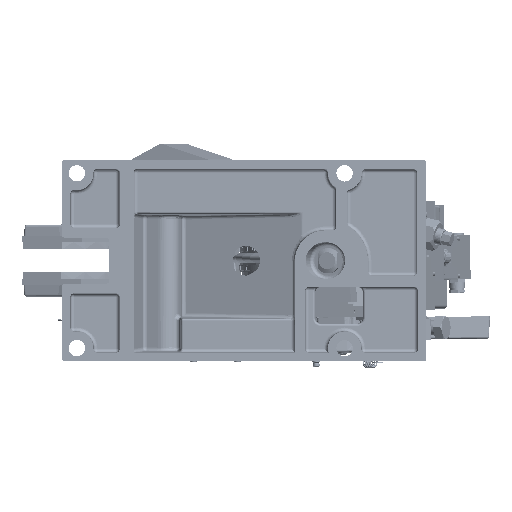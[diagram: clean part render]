
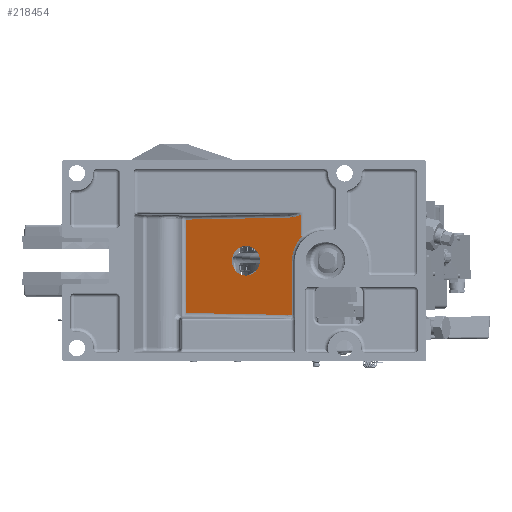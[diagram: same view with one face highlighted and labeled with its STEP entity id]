
A CAD part, front view. The second image highlights one B-rep face of the part: STEP entity #218454.
In plain terms, the highlighted planar face has unit normal (-0.342, -0.94, 0).
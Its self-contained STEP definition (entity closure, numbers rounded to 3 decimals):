
#56456=CARTESIAN_POINT('',(302.637,13.018,32.347));
#56465=CARTESIAN_POINT('',(301.859,13.302,34.821));
#56466=CARTESIAN_POINT('',(301.859,13.302,34.597));
#56467=CARTESIAN_POINT('',(301.876,13.295,34.261));
#56468=CARTESIAN_POINT('',(301.944,13.271,33.822));
#56469=CARTESIAN_POINT('',(302.02,13.243,33.5));
#56470=CARTESIAN_POINT('',(302.125,13.205,33.183));
#56471=CARTESIAN_POINT('',(302.307,13.138,32.779));
#56472=CARTESIAN_POINT('',(302.491,13.072,32.51));
#56473=CARTESIAN_POINT('',(302.637,13.018,32.347));
#56485=DIRECTION('',(0.,0.,-1.));
#56486=VECTOR('',#56485,27.978);
#56487=CARTESIAN_POINT('',(301.859,13.302,62.8));
#56488=LINE('',#56487,#56486);
#56758=DIRECTION('',(0.,0.,-1.));
#56759=VECTOR('',#56758,73.348);
#56760=CARTESIAN_POINT('',(289.192,17.912,
0.));
#56761=LINE('',#56760,#56759);
#56772=DIRECTION('',(-0.94,0.342,-0.018));
#56773=VECTOR('',#56772,144.145);
#56774=CARTESIAN_POINT('',(282.686,20.28,57.858));
#56775=LINE('',#56774,#56773);
#56779=CARTESIAN_POINT('',(301.859,13.302,62.8));
#56780=CARTESIAN_POINT('',(301.207,13.539,62.224));
#56781=CARTESIAN_POINT('',(299.88,14.022,61.341));
#56782=CARTESIAN_POINT('',(297.309,14.957,60.239));
#56783=CARTESIAN_POINT('',(294.982,15.804,59.483));
#56784=CARTESIAN_POINT('',(292.284,16.787,58.835));
#56785=CARTESIAN_POINT('',(288.27,18.248,58.156));
#56786=CARTESIAN_POINT('',(284.921,19.467,57.9));
#56787=CARTESIAN_POINT('',(282.686,20.28,57.858));
#56792=CARTESIAN_POINT('',(289.192,17.912,
0.));
#56793=CARTESIAN_POINT('',(289.192,17.912,3.116));
#56794=CARTESIAN_POINT('',(289.833,17.679,9.349));
#56795=CARTESIAN_POINT('',(292.676,16.644,18.308));
#56796=CARTESIAN_POINT('',(297.045,15.054,26.078));
#56797=CARTESIAN_POINT('',(300.77,13.698,30.488));
#56798=CARTESIAN_POINT('',(302.637,13.018,32.347));
#56803=CARTESIAN_POINT('',(282.686,20.28,
-72.858));
#56804=CARTESIAN_POINT('',(284.933,19.462,
-72.901));
#56805=CARTESIAN_POINT('',(287.149,18.656,
-73.072));
#56806=CARTESIAN_POINT('',(289.192,17.912,
-73.348));
#56811=DIRECTION('',(0.94,-0.342,-0.018));
#56812=VECTOR('',#56811,144.145);
#56813=CARTESIAN_POINT('',(147.256,69.572,
-70.275));
#56814=LINE('',#56813,#56812);
#56818=CARTESIAN_POINT('',(227.35,40.421,0.));
#56819=DIRECTION('',(0.342,0.94,0.));
#56820=DIRECTION('',(-0.94,0.342,0.));
#56821=AXIS2_PLACEMENT_3D('',#56818,#56819,#56820);
#56826=CARTESIAN_POINT('',(227.35,40.421,0.));
#56827=DIRECTION('',(0.342,0.94,0.));
#56828=DIRECTION('',(0.94,-0.342,0.));
#56829=AXIS2_PLACEMENT_3D('',#56826,#56827,#56828);
#56841=DIRECTION('',(0.,0.,1.));
#56842=VECTOR('',#56841,125.549);
#56843=CARTESIAN_POINT('',(147.256,69.572,
-70.275));
#56844=LINE('',#56843,#56842);
#56862=CARTESIAN_POINT('',(147.256,69.572,
-70.275));
#138697=CARTESIAN_POINT('',(289.192,17.912,
-73.348));
#138698=VERTEX_POINT('',#138697);
#138757=CARTESIAN_POINT('',(282.686,20.28,
57.858));
#138758=CARTESIAN_POINT('',(147.256,69.572,
55.275));
#138759=VERTEX_POINT('',#138757);
#138760=VERTEX_POINT('',#138758);
#138816=CARTESIAN_POINT('',(289.192,17.912,
0.));
#138817=VERTEX_POINT('',#138816);
#138876=CARTESIAN_POINT('',(208.556,47.261,
0.));
#138877=VERTEX_POINT('',#138876);
#139006=CARTESIAN_POINT('',(301.859,13.302,
34.821));
#139008=VERTEX_POINT('',#139006);
#139075=VERTEX_POINT('',#56779);
#139115=VERTEX_POINT('',#56456);
#139139=CARTESIAN_POINT('',(246.144,33.58,
0.));
#139140=VERTEX_POINT('',#139139);
#139285=VERTEX_POINT('',#56862);
#139294=VERTEX_POINT('',#56803);
#218428=CARTESIAN_POINT('',(300.699,13.724,
-389.919));
#218429=DIRECTION('',(0.342,0.94,0.));
#218430=DIRECTION('',(-0.94,0.342,0.));
#218431=AXIS2_PLACEMENT_3D('',#218428,#218429,#218430);
#218432=PLANE('',#218431);
#218434=ORIENTED_EDGE('',*,*,#218433,.T.);
#218435=ORIENTED_EDGE('',*,*,#218148,.F.);
#218436=ORIENTED_EDGE('',*,*,#218126,.F.);
#218437=ORIENTED_EDGE('',*,*,#217991,.T.);
#218438=ORIENTED_EDGE('',*,*,#217971,.T.);
#218440=ORIENTED_EDGE('',*,*,#218439,.F.);
#218441=ORIENTED_EDGE('',*,*,#218411,.T.);
#218443=ORIENTED_EDGE('',*,*,#218442,.F.);
#218445=ORIENTED_EDGE('',*,*,#218444,.F.);
#218446=EDGE_LOOP('',(#218434,#218435,#218436,#218437,#218438,#218440,#218441,
#218443,#218445));
#218447=FACE_OUTER_BOUND('',#218446,.F.);
#218449=ORIENTED_EDGE('',*,*,#218448,.F.);
#218451=ORIENTED_EDGE('',*,*,#218450,.F.);
#218452=EDGE_LOOP('',(#218449,#218451));
#218453=FACE_BOUND('',#218452,.F.);
#218454=ADVANCED_FACE('',(#218447,#218453),#218432,.F.);
#56474=B_SPLINE_CURVE_WITH_KNOTS('',3,(#56465,#56466,#56467,#56468,#56469,
#56470,#56471,#56472,#56473),.UNSPECIFIED.,.F.,.F.,(4,1,1,1,1,1,4),(0.,0.25,
0.375,0.5,0.625,0.75,1.),.UNSPECIFIED.);
#56788=B_SPLINE_CURVE_WITH_KNOTS('',3,(#56779,#56780,#56781,#56782,#56783,
#56784,#56785,#56786,#56787),.UNSPECIFIED.,.F.,.F.,(4,1,1,1,1,1,4),(0.,0.25,
0.375,0.5,0.625,0.75,1.),.UNSPECIFIED.);
#56799=B_SPLINE_CURVE_WITH_KNOTS('',3,(#56792,#56793,#56794,#56795,#56796,
#56797,#56798),.UNSPECIFIED.,.F.,.F.,(4,1,1,1,4),(0.,0.26,
0.52,0.78,1.),.UNSPECIFIED.);
#56807=B_SPLINE_CURVE_WITH_KNOTS('',3,(#56803,#56804,#56805,#56806),
.UNSPECIFIED.,.F.,.F.,(4,4),(0.,1.),.UNSPECIFIED.);
#56822=CIRCLE('',#56821,20.);
#56830=CIRCLE('',#56829,20.);
#217971=EDGE_CURVE('',#139008,#139115,#56474,.T.);
#217991=EDGE_CURVE('',#139075,#139008,#56488,.T.);
#218126=EDGE_CURVE('',#139075,#138759,#56788,.T.);
#218148=EDGE_CURVE('',#138759,#138760,#56775,.T.);
#218411=EDGE_CURVE('',#138817,#138698,#56761,.T.);
#218433=EDGE_CURVE('',#139285,#138760,#56844,.T.);
#218439=EDGE_CURVE('',#138817,#139115,#56799,.T.);
#218442=EDGE_CURVE('',#139294,#138698,#56807,.T.);
#218444=EDGE_CURVE('',#139285,#139294,#56814,.T.);
#218448=EDGE_CURVE('',#138877,#139140,#56822,.T.);
#218450=EDGE_CURVE('',#139140,#138877,#56830,.T.);
